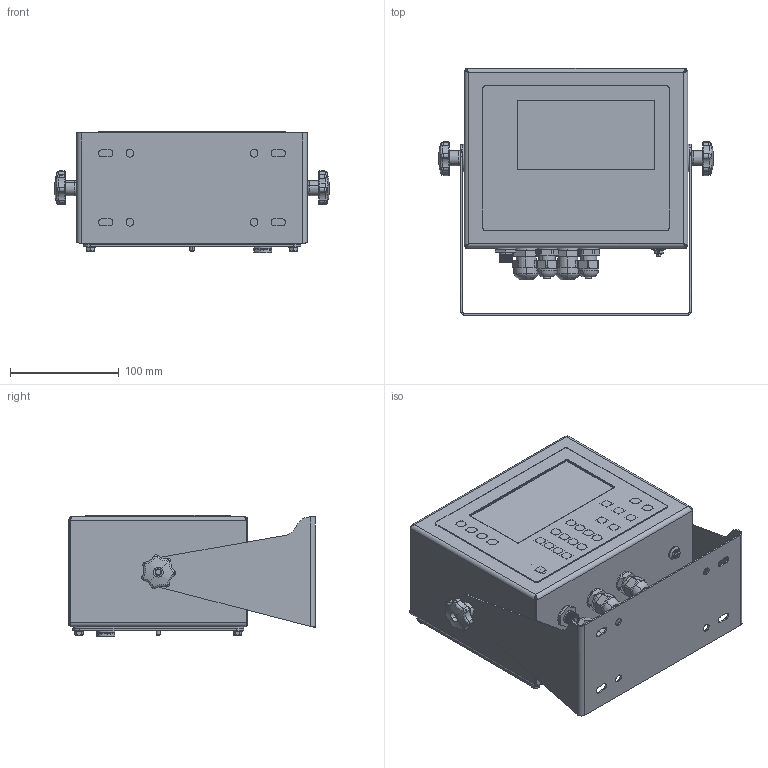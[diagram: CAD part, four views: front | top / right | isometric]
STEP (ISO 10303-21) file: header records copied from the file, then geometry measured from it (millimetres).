
FILE_DESCRIPTION (( 'STEP AP203' ), '1' );
FILE_NAME ('882IS-TOPLEVEL.STEP', '2019-05-15T21:48:12', ( '' ), ( '' ), 'SwSTEP 2.0', 'SolidWorks 2017', '' );
FILE_SCHEMA (( 'CONFIG_CONTROL_DESIGN' ));
Products named in the file (2): 882IS-TOPLEVEL
Bounding box: 252.91 x 227.2 x 111.97 mm (x, y, z)
Surface area: 438438.3 mm2 (no closed solid volume)
Topology: 0 solids, 114 shells, 844 faces, 4292 edges, 3520 vertices
Faces by surface type: cylinder 295, plane 280, cone 130, bspline 78, torus 51, sphere 10
Entity records: 54365 total; most frequent: CARTESIAN_POINT 19535, DIRECTION 7472, ORIENTED_EDGE 5704, EDGE_CURVE 4286, VERTEX_POINT 3516, AXIS2_PLACEMENT_3D 3082, CIRCLE 2314, EDGE_LOOP 1642
